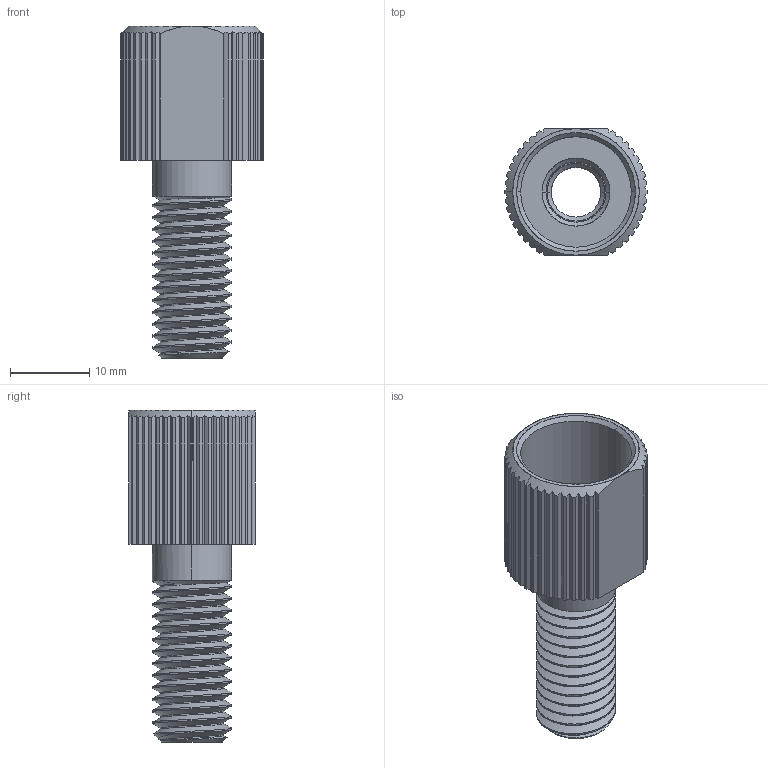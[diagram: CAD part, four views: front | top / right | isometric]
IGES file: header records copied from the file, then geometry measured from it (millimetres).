
Start section: SolidWorks IGES file using analytic representation for surfaces
Global section: file name: C:\Users\Jonathan\Dropbox\BR-Engineering\PROJECTS\PENETRATOR\MODELS\RELEASES\PUBLIC\PENETRATOR-M-BOLT-10-25-8MM-X1B\PENETRATOR-M-BOLT-10-25-8MM-X1B.IGS; native system: SolidWorks 2016; preprocessor: SolidWorks 2016; author: Jonathan; date: 170705.153110; units: millimetre
Bounding box: 18 x 16 x 42 mm (x, y, z)
Surface area: 3899.4 mm2 (no closed solid volume)
Topology: 0 solids, 0 shells, 199 faces, 3012 edges, 3012 vertices
Faces by surface type: revolution 116, bspline 83
